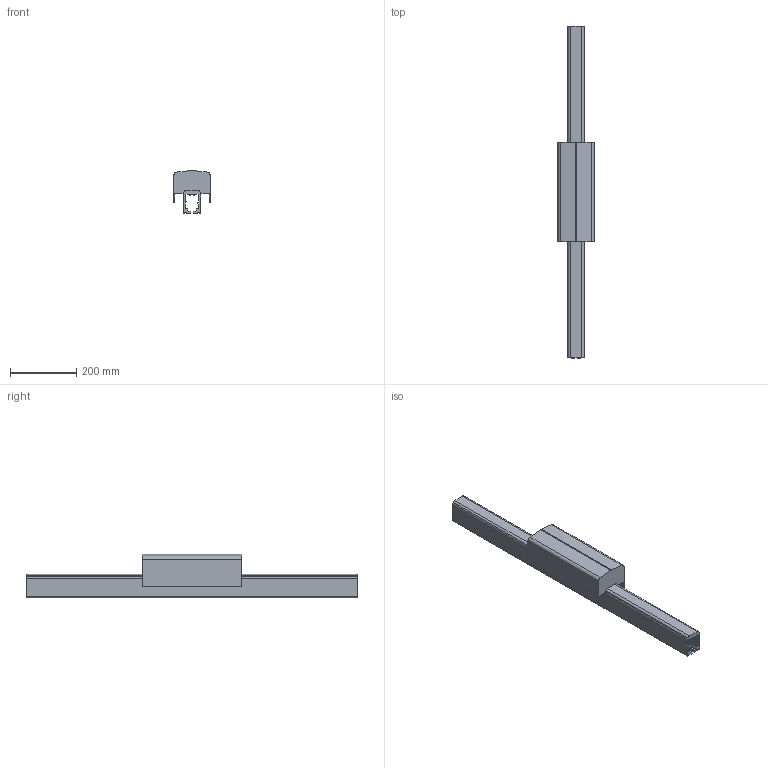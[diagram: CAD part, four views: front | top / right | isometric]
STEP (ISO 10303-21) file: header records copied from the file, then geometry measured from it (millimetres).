
FILE_DESCRIPTION(/* description */ ('Unknown'),/* implementation_level */ '2;1');
FILE_NAME(/* name */ 'MI530x_Elément ventilation 1M_SPL',/* time_stamp */ '2018-08-10T11:22:29+02:00',/* author */ ('Unknown'),/* organization */ ('Unknown'),/* preprocessor_version */ 'ST-DEVELOPER v16.7',/* originating_system */ 'DEX',/* authorisation */ $);
FILE_SCHEMA (('AUTOMOTIVE_DESIGN {1 0 10303 214 3 1 1}'));
Length unit declared in the file: millimetre
Products named in the file (1): MI530x_Elément ventilation 1M_SPL
Bounding box: 109 x 1000 x 130.25 mm (x, y, z)
Volume: 3744331.4 mm3; surface area: 616539.6 mm2
Topology: 1 solids, 1 shells, 175 faces, 517 edges, 344 vertices
Faces by surface type: plane 107, cylinder 68
Entity records: 7103 total; most frequent: CARTESIAN_POINT 1037, ORIENTED_EDGE 1034, DIRECTION 1007, EDGE_CURVE 517, LINE 379, VECTOR 379, VERTEX_POINT 344, AXIS2_PLACEMENT_3D 314
